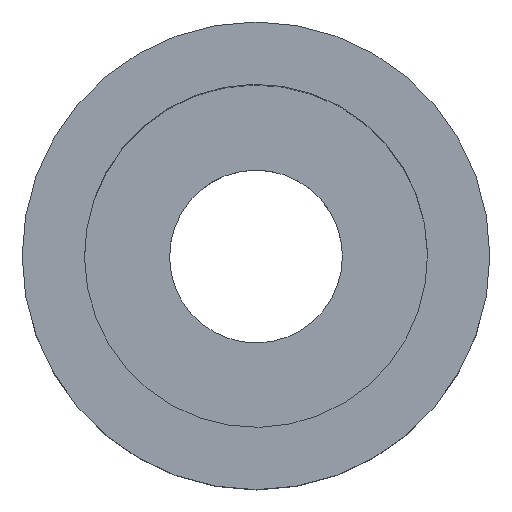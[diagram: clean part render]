
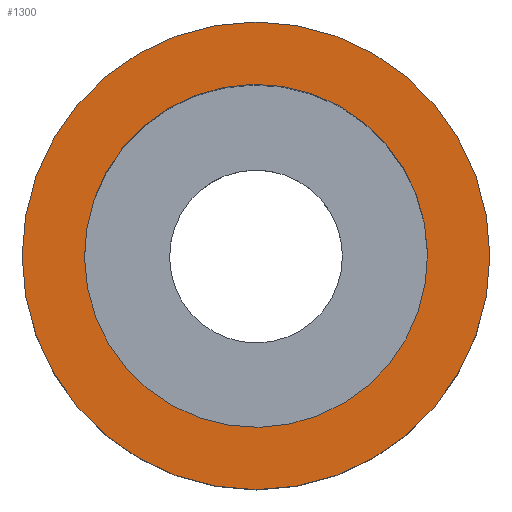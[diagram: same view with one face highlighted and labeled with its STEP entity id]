
A CAD part, top view. The second image highlights one B-rep face of the part: STEP entity #1300.
In plain terms, the highlighted planar face has unit normal (0, 0, 1).
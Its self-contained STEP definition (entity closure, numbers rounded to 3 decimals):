
#120=CARTESIAN_POINT('',(12.755,56.56,
86.515));
#130=VERTEX_POINT('',#120);
#160=CARTESIAN_POINT('',(26.653,56.805,86.515));
#170=DIRECTION('',(0.,0.,1.));
#180=DIRECTION('',(-1.,-0.018,
0.));
#190=AXIS2_PLACEMENT_3D('',#160,#170,#180);
#200=CIRCLE('',#190,13.9);
#210=CARTESIAN_POINT('',(40.55,57.05,
86.515));
#220=VERTEX_POINT('',#210);
#230=EDGE_CURVE('',#220,#130,#200,.T.);
#520=CARTESIAN_POINT('',(26.653,75.755,86.515));
#530=VERTEX_POINT('',#520);
#750=CARTESIAN_POINT('',(26.653,37.855,86.515));
#760=VERTEX_POINT('',#750);
#790=CARTESIAN_POINT('',(26.653,56.805,86.515));
#800=DIRECTION('',(0.,0.,-1.));
#810=DIRECTION('',(0.,-1.,0.));
#820=AXIS2_PLACEMENT_3D('',#790,#800,#810);
#830=CIRCLE('',#820,18.95);
#840=EDGE_CURVE('',#530,#760,#830,.T.);
#1150=CARTESIAN_POINT('',(26.653,74.48,86.515));
#1160=DIRECTION('',(0.,0.,1.));
#1170=DIRECTION('',(0.,1.,0.));
#1180=AXIS2_PLACEMENT_3D('',#1150,#1160,#1170);
#1190=PLANE('',#1180);
#1200=EDGE_CURVE('',#130,#220,#200,.T.);
#1210=ORIENTED_EDGE('',*,*,#1200,.F.);
#1220=ORIENTED_EDGE('',*,*,#230,.F.);
#1230=EDGE_LOOP('',(#1220,#1210));
#1240=FACE_BOUND('',#1230,.T.);
#1250=EDGE_CURVE('',#760,#530,#830,.T.);
#1260=ORIENTED_EDGE('',*,*,#1250,.F.);
#1270=ORIENTED_EDGE('',*,*,#840,.F.);
#1280=EDGE_LOOP('',(#1270,#1260));
#1290=FACE_OUTER_BOUND('',#1280,.T.);
#1300=ADVANCED_FACE('',(#1240,#1290),#1190,.T.);
